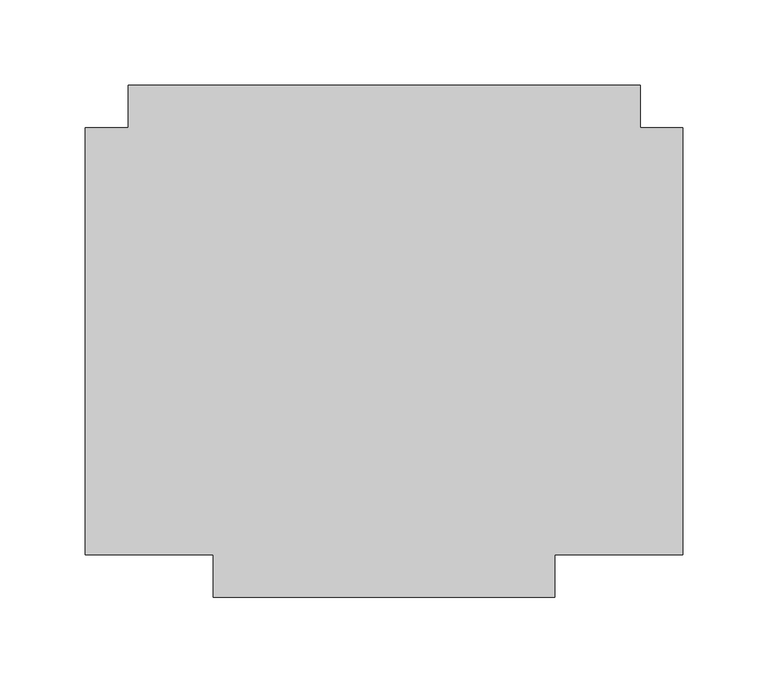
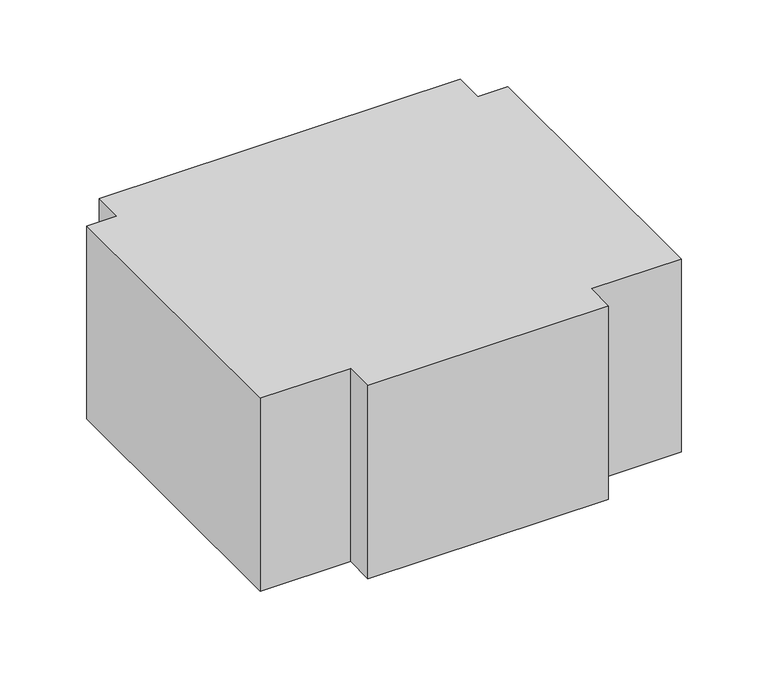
"""IFC4 building model written with IfcOpenShell, lengths in millimetres: duct fitting geometry, M_Cruz rectangular : Estándar."""

from ifc_helpers import new_model, si_unit, frame, origin, place, context, project, spatial, polyline, outline, extrude, source, transform, mapped, element, save


def duct_fitting_af0bfa03(model_context):
    return source(origin(), model_context, "Body", "SweptSolid", [
        extrude(outline(polyline([(100.0, -150.0), (-100.0, -150.0), (-100.0, -125.0), (-175.0, -125.0), (-175.0, 125.0), (-150.0, 125.0), (-150.0, 150.0), (150.0, 150.0), (150.0, 125.0), (175.0, 125.0), (175.0, -125.0), (100.0, -125.0), (100.0, -150.0)])), frame((0.0, 0.0, -85.0), z_axis=(0.0, 0.0, 1.0), x_axis=(1.0, 0.0, 0.0)), (0.0, 0.0, 1.0), 170.0),
    ])


if __name__ == "__main__":
    model = new_model("IFC4")
    model_context = context("Model", 3, world=origin())
    ifc_project = project(units=[si_unit("LENGTHUNIT", "METRE", prefix="MILLI")], contexts=[model_context])
    site = spatial("IfcSite", under=ifc_project)
    building = spatial("IfcBuilding", under=site)
    placement = place(None, origin())
    duct_fitting_shape = duct_fitting_af0bfa03(model_context)
    element("IfcDuctFitting", 1, ObjectType="M_Cruz rectangular : Estándar", at=placement, inside=building, context=model_context, shape_type="MappedRepresentation", body=[
        mapped(duct_fitting_shape, transform((0.0, 0.0, 0.0), x_axis=(1.0, 0.0, 0.0), y_axis=(0.0, 1.0, 0.0), z_axis=(0.0, 0.0, 1.0))),
    ])
    save(model, "model.ifc")
